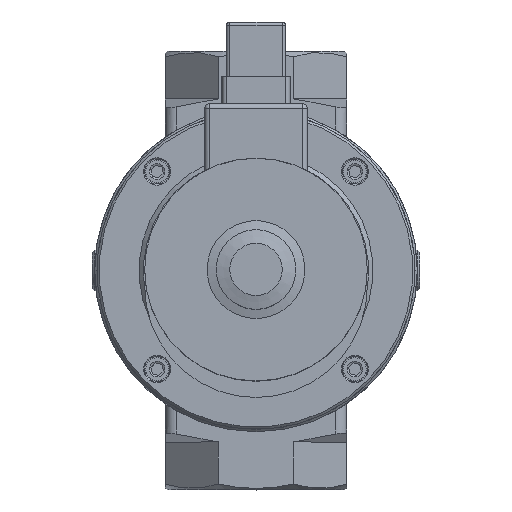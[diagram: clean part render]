
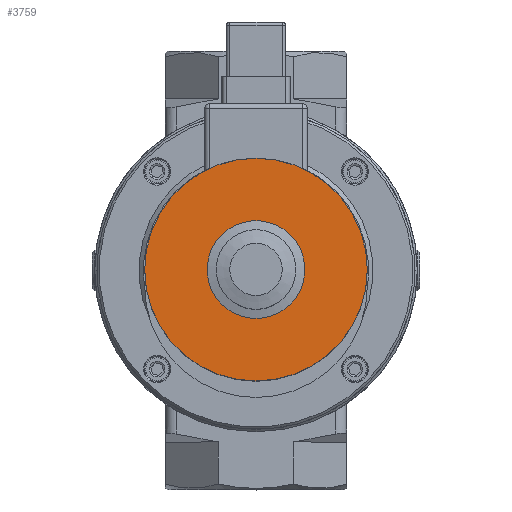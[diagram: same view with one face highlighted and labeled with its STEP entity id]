
A CAD part, top view. The second image highlights one B-rep face of the part: STEP entity #3759.
In plain terms, the highlighted planar face has unit normal (0, 0, 1).
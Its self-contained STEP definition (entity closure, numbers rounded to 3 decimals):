
#3759 = ADVANCED_FACE( '', ( #5983, #5984 ), #5985, .F. );
#5983 = FACE_BOUND( '', #9275, .T. );
#5984 = FACE_OUTER_BOUND( '', #9276, .T. );
#5985 = PLANE( '', #9277 );
#9275 = EDGE_LOOP( '', ( #14540 ) );
#9276 = EDGE_LOOP( '', ( #14541 ) );
#9277 = AXIS2_PLACEMENT_3D( '', #14542, #14543, #14544 );
#14540 = ORIENTED_EDGE( '', *, *, #15817, .T. );
#14541 = ORIENTED_EDGE( '', *, *, #15800, .F. );
#14542 = CARTESIAN_POINT( '', ( 0., -7., 80. ) );
#14543 = DIRECTION( '', ( 0., 0., -1. ) );
#14544 = DIRECTION( '', ( -1., 0., 0. ) );
#15800 = EDGE_CURVE( '', #18132, #18132, #18133, .T. );
#15817 = EDGE_CURVE( '', #18161, #18161, #18162, .T. );
#18132 = VERTEX_POINT( '', #22694 );
#18133 = CIRCLE( '', #22695, 49. );
#18161 = VERTEX_POINT( '', #22783 );
#18162 = CIRCLE( '', #22784, 20. );
#22694 = CARTESIAN_POINT( '', ( 0., 42., 80. ) );
#22695 = AXIS2_PLACEMENT_3D( '', #25398, #25399, #25400 );
#22783 = CARTESIAN_POINT( '', ( 0., 13., 80. ) );
#22784 = AXIS2_PLACEMENT_3D( '', #25425, #25426, #25427 );
#25398 = CARTESIAN_POINT( '', ( 0., -7., 80. ) );
#25399 = DIRECTION( '', ( 0., 0., -1. ) );
#25400 = DIRECTION( '', ( 0., 1., 0. ) );
#25425 = CARTESIAN_POINT( '', ( 0., -7., 80. ) );
#25426 = DIRECTION( '', ( 0., 0., -1. ) );
#25427 = DIRECTION( '', ( 0., 1., 0. ) );
